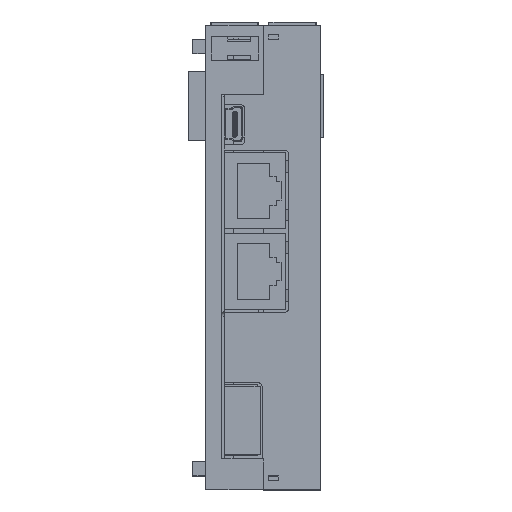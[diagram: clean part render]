
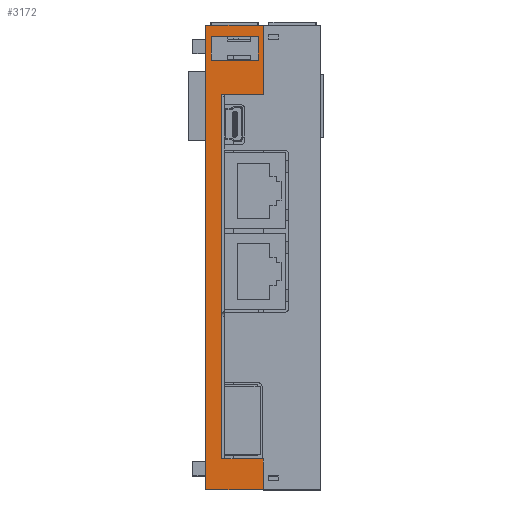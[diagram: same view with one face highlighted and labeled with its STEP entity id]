
A CAD part, top view. The second image highlights one B-rep face of the part: STEP entity #3172.
In plain terms, the highlighted planar face has unit normal (0, 0, 1).
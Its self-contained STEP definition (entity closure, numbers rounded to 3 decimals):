
#65 = DIRECTION ( 'NONE',  ( 0., 1., 0. ) ) ;
#86 = VECTOR ( 'NONE', #16532, 1000. ) ;
#516 = EDGE_CURVE ( 'NONE', #1569, #11663, #28959, .T. ) ;
#625 = ORIENTED_EDGE ( 'NONE', *, *, #21101, .T. ) ;
#757 = CARTESIAN_POINT ( 'NONE',  ( -1., -53.973, 58.397 ) ) ;
#1131 = VECTOR ( 'NONE', #24377, 1000. ) ;
#1569 = VERTEX_POINT ( 'NONE', #24492 ) ;
#3172 = ADVANCED_FACE ( 'NONE', ( #40127, #25594 ), #23700, .F. ) ;
#3499 = CARTESIAN_POINT ( 'NONE',  ( -1., 46.827, 58.397 ) ) ;
#5553 = CARTESIAN_POINT ( 'NONE',  ( 11.5, -47.248, 58.397 ) ) ;
#5974 = CARTESIAN_POINT ( 'NONE',  ( 11.5, 31.902, 58.397 ) ) ;
#7573 = LINE ( 'NONE', #11441, #11197 ) ;
#8073 = CARTESIAN_POINT ( 'NONE',  ( 10.35, 39.246, 58.397 ) ) ;
#9015 = CARTESIAN_POINT ( 'NONE',  ( -1., 46.827, 58.397 ) ) ;
#11095 = CARTESIAN_POINT ( 'NONE',  ( 2.5, -47.248, 58.397 ) ) ;
#11197 = VECTOR ( 'NONE', #34829, 1000. ) ;
#11337 = DIRECTION ( 'NONE',  ( 0., 1., 0. ) ) ;
#11377 = DIRECTION ( 'NONE',  ( -1., 0., 0. ) ) ;
#11441 = CARTESIAN_POINT ( 'NONE',  ( -1., 31.902, 58.397 ) ) ;
#11663 = VERTEX_POINT ( 'NONE', #757 ) ;
#11829 = DIRECTION ( 'NONE',  ( 0., 1., 0. ) ) ;
#14298 = EDGE_LOOP ( 'NONE', ( #19987, #40853, #22264, #625, #39846, #15898, #28076, #43311 ) ) ;
#15479 = LINE ( 'NONE', #23775, #27007 ) ;
#15698 = LINE ( 'NONE', #50231, #44162 ) ;
#15898 = ORIENTED_EDGE ( 'NONE', *, *, #22538, .F. ) ;
#15929 = ORIENTED_EDGE ( 'NONE', *, *, #36890, .F. ) ;
#16532 = DIRECTION ( 'NONE',  ( 0., 1., 0. ) ) ;
#16676 = CARTESIAN_POINT ( 'NONE',  ( 11.5, 46.827, 58.397 ) ) ;
#16725 = CARTESIAN_POINT ( 'NONE',  ( 11.5, -53.973, 58.397 ) ) ;
#17524 = LINE ( 'NONE', #45993, #30852 ) ;
#19292 = DIRECTION ( 'NONE',  ( 1., 0., 0. ) ) ;
#19987 = ORIENTED_EDGE ( 'NONE', *, *, #37371, .T. ) ;
#20184 = DIRECTION ( 'NONE',  ( 0., -1., 0. ) ) ;
#20758 = LINE ( 'NONE', #31942, #86 ) ;
#21101 = EDGE_CURVE ( 'NONE', #45737, #48210, #25272, .T. ) ;
#21554 = EDGE_CURVE ( 'NONE', #23381, #45737, #7573, .T. ) ;
#22264 = ORIENTED_EDGE ( 'NONE', *, *, #21554, .T. ) ;
#22524 = VERTEX_POINT ( 'NONE', #32124 ) ;
#22538 = EDGE_CURVE ( 'NONE', #11663, #45516, #20758, .T. ) ;
#23381 = VERTEX_POINT ( 'NONE', #29659 ) ;
#23700 = PLANE ( 'NONE',  #29064 ) ;
#23775 = CARTESIAN_POINT ( 'NONE',  ( 0.15, 44.446, 58.397 ) ) ;
#23861 = CARTESIAN_POINT ( 'NONE',  ( 2., 43.727, 58.397 ) ) ;
#24377 = DIRECTION ( 'NONE',  ( 0., 1., 0. ) ) ;
#24492 = CARTESIAN_POINT ( 'NONE',  ( 11.5, -53.973, 58.397 ) ) ;
#24979 = CARTESIAN_POINT ( 'NONE',  ( 2.5, 31.902, 58.397 ) ) ;
#25272 = LINE ( 'NONE', #47445, #42235 ) ;
#25365 = VECTOR ( 'NONE', #36455, 1000. ) ;
#25428 = VERTEX_POINT ( 'NONE', #8073 ) ;
#25594 = FACE_OUTER_BOUND ( 'NONE', #14298, .T. ) ;
#27007 = VECTOR ( 'NONE', #20184, 1000. ) ;
#27584 = LINE ( 'NONE', #37253, #34202 ) ;
#28076 = ORIENTED_EDGE ( 'NONE', *, *, #516, .F. ) ;
#28439 = CARTESIAN_POINT ( 'NONE',  ( 10.35, 39.246, 58.397 ) ) ;
#28959 = LINE ( 'NONE', #16725, #36213 ) ;
#29064 = AXIS2_PLACEMENT_3D ( 'NONE', #23861, #39284, #65 ) ;
#29483 = EDGE_CURVE ( 'NONE', #45516, #48210, #38307, .T. ) ;
#29659 = CARTESIAN_POINT ( 'NONE',  ( 2.5, 31.902, 58.397 ) ) ;
#30342 = EDGE_CURVE ( 'NONE', #25428, #44941, #40658, .T. ) ;
#30852 = VECTOR ( 'NONE', #11377, 1000. ) ;
#30926 = EDGE_CURVE ( 'NONE', #23381, #37964, #43493, .T. ) ;
#31942 = CARTESIAN_POINT ( 'NONE',  ( -1., -50.873, 58.397 ) ) ;
#32010 = CARTESIAN_POINT ( 'NONE',  ( 10.35, 44.446, 58.397 ) ) ;
#32124 = CARTESIAN_POINT ( 'NONE',  ( 0.15, 44.446, 58.397 ) ) ;
#32360 = ORIENTED_EDGE ( 'NONE', *, *, #30342, .F. ) ;
#33179 = EDGE_LOOP ( 'NONE', ( #32360, #35715, #44963, #15929 ) ) ;
#34002 = CARTESIAN_POINT ( 'NONE',  ( 10.35, 44.446, 58.397 ) ) ;
#34202 = VECTOR ( 'NONE', #34510, 1000. ) ;
#34510 = DIRECTION ( 'NONE',  ( 1., 0., 0. ) ) ;
#34829 = DIRECTION ( 'NONE',  ( 1., 0., 0. ) ) ;
#35338 = EDGE_CURVE ( 'NONE', #1569, #49697, #15698, .T. ) ;
#35426 = VECTOR ( 'NONE', #38293, 1000. ) ;
#35715 = ORIENTED_EDGE ( 'NONE', *, *, #36793, .F. ) ;
#35846 = VECTOR ( 'NONE', #19292, 1000. ) ;
#36213 = VECTOR ( 'NONE', #40123, 1000. ) ;
#36455 = DIRECTION ( 'NONE',  ( 0., -1., 0. ) ) ;
#36793 = EDGE_CURVE ( 'NONE', #44338, #25428, #27584, .T. ) ;
#36890 = EDGE_CURVE ( 'NONE', #44941, #22524, #45749, .T. ) ;
#37253 = CARTESIAN_POINT ( 'NONE',  ( 0.15, 39.246, 58.397 ) ) ;
#37371 = EDGE_CURVE ( 'NONE', #49697, #37964, #17524, .T. ) ;
#37964 = VERTEX_POINT ( 'NONE', #11095 ) ;
#38293 = DIRECTION ( 'NONE',  ( -1., 0., 0. ) ) ;
#38307 = LINE ( 'NONE', #3499, #35846 ) ;
#38888 = EDGE_CURVE ( 'NONE', #22524, #44338, #15479, .T. ) ;
#39284 = DIRECTION ( 'NONE',  ( 0., 0., -1. ) ) ;
#39846 = ORIENTED_EDGE ( 'NONE', *, *, #29483, .F. ) ;
#40123 = DIRECTION ( 'NONE',  ( -1., 0., 0. ) ) ;
#40127 = FACE_BOUND ( 'NONE', #33179, .T. ) ;
#40658 = LINE ( 'NONE', #28439, #1131 ) ;
#40853 = ORIENTED_EDGE ( 'NONE', *, *, #30926, .F. ) ;
#42235 = VECTOR ( 'NONE', #11829, 1000. ) ;
#43311 = ORIENTED_EDGE ( 'NONE', *, *, #35338, .T. ) ;
#43493 = LINE ( 'NONE', #24979, #25365 ) ;
#44162 = VECTOR ( 'NONE', #11337, 1000. ) ;
#44338 = VERTEX_POINT ( 'NONE', #46629 ) ;
#44941 = VERTEX_POINT ( 'NONE', #32010 ) ;
#44963 = ORIENTED_EDGE ( 'NONE', *, *, #38888, .F. ) ;
#45516 = VERTEX_POINT ( 'NONE', #9015 ) ;
#45737 = VERTEX_POINT ( 'NONE', #5974 ) ;
#45749 = LINE ( 'NONE', #34002, #35426 ) ;
#45993 = CARTESIAN_POINT ( 'NONE',  ( 3., -47.248, 58.397 ) ) ;
#46629 = CARTESIAN_POINT ( 'NONE',  ( 0.15, 39.246, 58.397 ) ) ;
#47445 = CARTESIAN_POINT ( 'NONE',  ( 11.5, 44.827, 58.397 ) ) ;
#48210 = VERTEX_POINT ( 'NONE', #16676 ) ;
#49697 = VERTEX_POINT ( 'NONE', #5553 ) ;
#50231 = CARTESIAN_POINT ( 'NONE',  ( 11.5, -51.973, 58.397 ) ) ;
